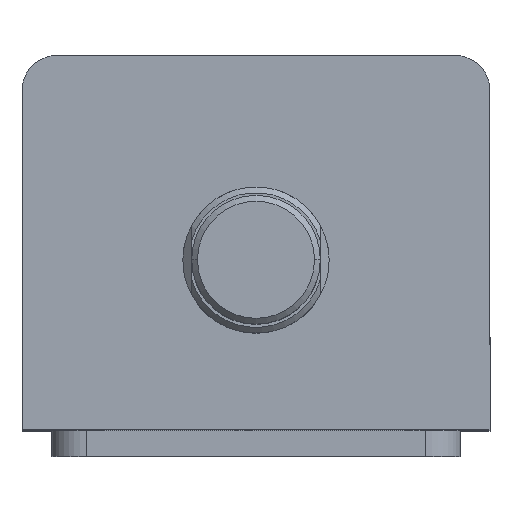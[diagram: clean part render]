
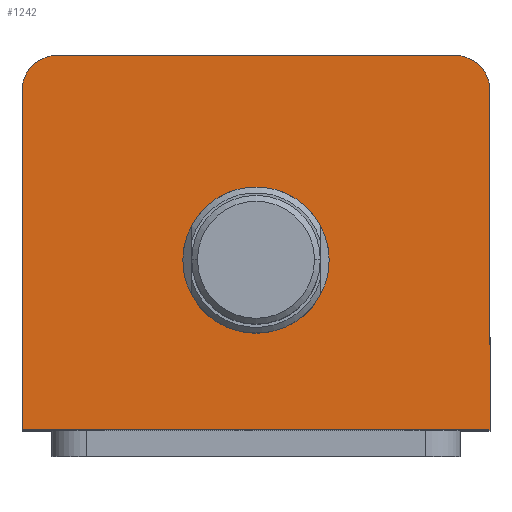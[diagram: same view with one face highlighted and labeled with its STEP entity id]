
A CAD part, top view. The second image highlights one B-rep face of the part: STEP entity #1242.
In plain terms, the highlighted planar face has unit normal (0, 0, 1).
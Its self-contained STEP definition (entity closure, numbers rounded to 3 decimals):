
#87 = EDGE_LOOP ( 'NONE', ( #90, #91 ) ) ;
#90 = ORIENTED_EDGE ( 'NONE', *, *, #3752, .F. ) ;
#91 = ORIENTED_EDGE ( 'NONE', *, *, #553, .F. ) ;
#92 = ORIENTED_EDGE ( 'NONE', *, *, #2681, .T. ) ;
#189 = EDGE_CURVE ( 'NONE', #1452, #1413, #1790, .T. ) ;
#282 = ORIENTED_EDGE ( 'NONE', *, *, #924, .T. ) ;
#283 = ORIENTED_EDGE ( 'NONE', *, *, #2541, .T. ) ;
#284 = ORIENTED_EDGE ( 'NONE', *, *, #2657, .T. ) ;
#368 = LINE ( 'NONE', #2447, #371 ) ;
#371 = VECTOR ( 'NONE', #2446, 1000. ) ;
#393 = LINE ( 'NONE', #3067, #396 ) ;
#396 = VECTOR ( 'NONE', #3116, 1000. ) ;
#434 = LINE ( 'NONE', #3081, #437 ) ;
#437 = VECTOR ( 'NONE', #3080, 1000. ) ;
#450 = CIRCLE ( 'NONE', #2173, 6. ) ;
#482 = CIRCLE ( 'NONE', #2185, 12.5 ) ;
#553 = EDGE_CURVE ( 'NONE', #1477, #1462, #3318, .T. ) ;
#832 = DIRECTION ( 'NONE',  ( 1., 0., 0. ) ) ;
#833 = DIRECTION ( 'NONE',  ( 0., 0., 1. ) ) ;
#839 = PLANE ( 'NONE',  #2065 ) ;
#840 = CARTESIAN_POINT ( 'NONE',  ( 0., 0., 145. ) ) ;
#924 = EDGE_CURVE ( 'NONE', #1391, #1435, #3350, .T. ) ;
#1093 = DIRECTION ( 'NONE',  ( 0., 1., 0. ) ) ;
#1095 = CARTESIAN_POINT ( 'NONE',  ( 40., 32., 145. ) ) ;
#1242 = ADVANCED_FACE ( 'NONE', ( #3538, #3545 ), #839, .T. ) ;
#1391 = VERTEX_POINT ( 'NONE', #2813 ) ;
#1399 = VERTEX_POINT ( 'NONE', #2770 ) ;
#1413 = VERTEX_POINT ( 'NONE', #2756 ) ;
#1435 = VERTEX_POINT ( 'NONE', #2996 ) ;
#1452 = VERTEX_POINT ( 'NONE', #2982 ) ;
#1462 = VERTEX_POINT ( 'NONE', #2972 ) ;
#1477 = VERTEX_POINT ( 'NONE', #2964 ) ;
#1495 = VERTEX_POINT ( 'NONE', #2949 ) ;
#1790 = LINE ( 'NONE', #1095, #1793 ) ;
#1793 = VECTOR ( 'NONE', #1093, 1000. ) ;
#1977 = AXIS2_PLACEMENT_3D ( 'NONE', #3728, #3727, #3726 ) ;
#1987 = AXIS2_PLACEMENT_3D ( 'NONE', #3667, #3666, #3664 ) ;
#2065 = AXIS2_PLACEMENT_3D ( 'NONE', #840, #833, #832 ) ;
#2173 = AXIS2_PLACEMENT_3D ( 'NONE', #2624, #2623, #2622 ) ;
#2185 = AXIS2_PLACEMENT_3D ( 'NONE', #2415, #2400, #3803 ) ;
#2400 = DIRECTION ( 'NONE',  ( 0., 0., 1. ) ) ;
#2415 = CARTESIAN_POINT ( 'NONE',  ( 0., -3., 145. ) ) ;
#2446 = DIRECTION ( 'NONE',  ( 0., -1., 0. ) ) ;
#2447 = CARTESIAN_POINT ( 'NONE',  ( -40., 32., 145. ) ) ;
#2541 = EDGE_CURVE ( 'NONE', #1435, #1495, #368, .T. ) ;
#2622 = DIRECTION ( 'NONE',  ( 1., 0., 0. ) ) ;
#2623 = DIRECTION ( 'NONE',  ( 0., 0., 1. ) ) ;
#2624 = CARTESIAN_POINT ( 'NONE',  ( 34., 26., 145. ) ) ;
#2657 = EDGE_CURVE ( 'NONE', #1495, #1452, #393, .T. ) ;
#2681 = EDGE_CURVE ( 'NONE', #1399, #1391, #434, .T. ) ;
#2694 = EDGE_CURVE ( 'NONE', #1413, #1399, #450, .T. ) ;
#2756 = CARTESIAN_POINT ( 'NONE',  ( 40., 26., 145. ) ) ;
#2770 = CARTESIAN_POINT ( 'NONE',  ( 34., 32., 145. ) ) ;
#2813 = CARTESIAN_POINT ( 'NONE',  ( -34., 32., 145. ) ) ;
#2949 = CARTESIAN_POINT ( 'NONE',  ( -40., -32., 145. ) ) ;
#2964 = CARTESIAN_POINT ( 'NONE',  ( -12.5, -3., 145. ) ) ;
#2972 = CARTESIAN_POINT ( 'NONE',  ( 12.5, -3., 145. ) ) ;
#2982 = CARTESIAN_POINT ( 'NONE',  ( 40., -32., 145. ) ) ;
#2996 = CARTESIAN_POINT ( 'NONE',  ( -40., 26., 145. ) ) ;
#3025 = EDGE_LOOP ( 'NONE', ( #92, #282, #283, #284, #3749, #3747 ) ) ;
#3067 = CARTESIAN_POINT ( 'NONE',  ( -40., -32., 145. ) ) ;
#3080 = DIRECTION ( 'NONE',  ( -1., 0., 0. ) ) ;
#3081 = CARTESIAN_POINT ( 'NONE',  ( -40., 32., 145. ) ) ;
#3116 = DIRECTION ( 'NONE',  ( 1., 0., 0. ) ) ;
#3318 = CIRCLE ( 'NONE', #1977, 12.5 ) ;
#3350 = CIRCLE ( 'NONE', #1987, 6. ) ;
#3538 = FACE_BOUND ( 'NONE', #87, .T. ) ;
#3545 = FACE_OUTER_BOUND ( 'NONE', #3025, .T. ) ;
#3664 = DIRECTION ( 'NONE',  ( 1., 0., 0. ) ) ;
#3666 = DIRECTION ( 'NONE',  ( 0., 0., 1. ) ) ;
#3667 = CARTESIAN_POINT ( 'NONE',  ( -34., 26., 145. ) ) ;
#3726 = DIRECTION ( 'NONE',  ( 1., 0., 0. ) ) ;
#3727 = DIRECTION ( 'NONE',  ( 0., 0., 1. ) ) ;
#3728 = CARTESIAN_POINT ( 'NONE',  ( 0., -3., 145. ) ) ;
#3747 = ORIENTED_EDGE ( 'NONE', *, *, #2694, .T. ) ;
#3749 = ORIENTED_EDGE ( 'NONE', *, *, #189, .T. ) ;
#3752 = EDGE_CURVE ( 'NONE', #1462, #1477, #482, .T. ) ;
#3803 = DIRECTION ( 'NONE',  ( 1., 0., 0. ) ) ;
